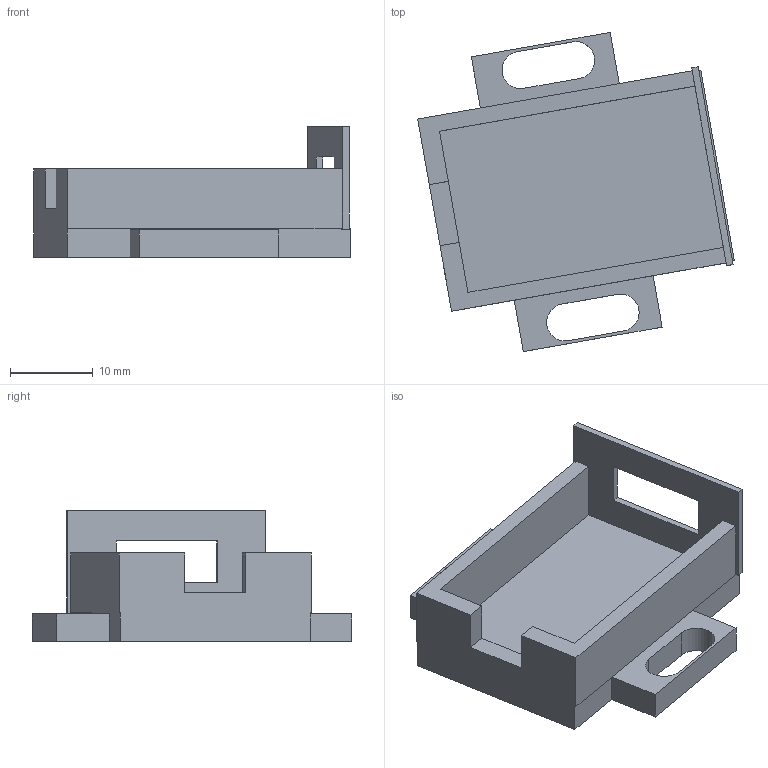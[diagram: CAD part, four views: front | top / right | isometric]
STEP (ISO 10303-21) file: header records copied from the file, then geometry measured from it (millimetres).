
FILE_DESCRIPTION(('Open CASCADE Model'),'2;1');
FILE_NAME('Open CASCADE Shape Model','2026-11-22T17:37:37',('Author'),( 'Open CASCADE'),'Open CASCADE STEP processor 7.9','Open CASCADE 7.9' ,'Unknown');
FILE_SCHEMA(('AUTOMOTIVE_DESIGN { 1 0 10303 214 1 1 1 1 }'));
Length unit declared in the file: millimetre
Products named in the file (1): Open CASCADE STEP translator 7.9 5
Bounding box: 38.29 x 38.61 x 15.83 mm (x, y, z)
Volume: 4632.1 mm3; surface area: 4264.8 mm2
Topology: 1 solids, 1 shells, 46 faces, 132 edges, 88 vertices
Faces by surface type: plane 42, cylinder 4
Entity records: 3246 total; most frequent: CARTESIAN_POINT 579, DIRECTION 490, LINE 380, VECTOR 380, ORIENTED_EDGE 264, PCURVE 264, DEFINITIONAL_REPRESENTATION 264, EDGE_CURVE 132
